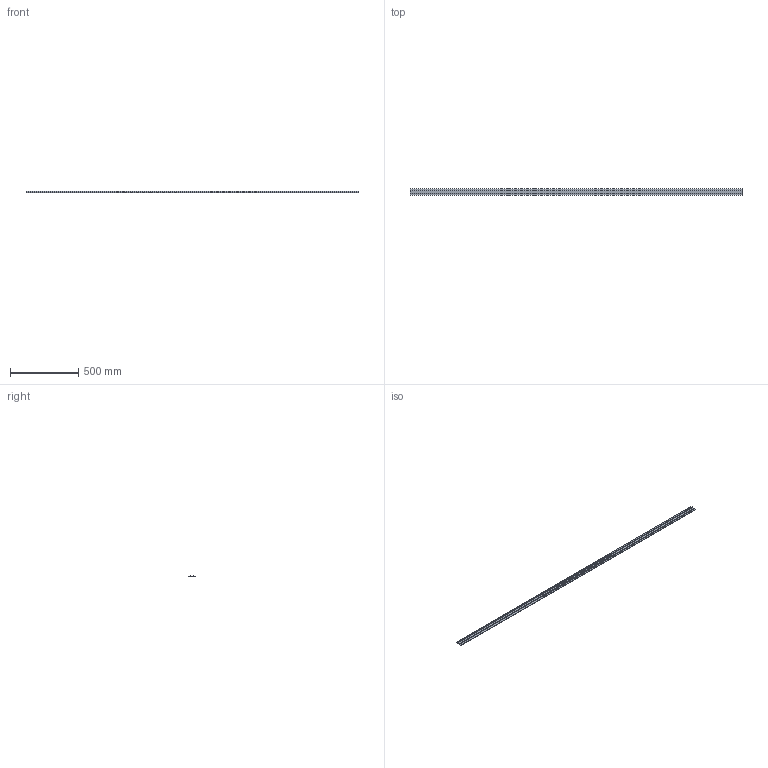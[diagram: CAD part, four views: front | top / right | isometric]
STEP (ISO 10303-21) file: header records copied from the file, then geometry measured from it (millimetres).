
FILE_DESCRIPTION((''),'2;1');
FILE_NAME('GTB13C04','2018-01-24T',('james.horst'),(''),'PRO/ENGINEER BY PARAMETRIC TECHNOLOGY CORPORATION, 2012420','PRO/ENGINEER BY PARAMETRIC TECHNOLOGY CORPORATION, 2012420','');
FILE_SCHEMA(('CONFIG_CONTROL_DESIGN'));
Length unit declared in the file: inch
Products named in the file (1): GTB13C04
Bounding box: 2438.4 x 50 x 7.9 mm (x, y, z)
Volume: 411323.9 mm3; surface area: 308052.6 mm2
Topology: 1 solids, 1 shells, 22 faces, 62 edges, 42 vertices
Faces by surface type: plane 14, cylinder 8
Entity records: 759 total; most frequent: CARTESIAN_POINT 130, ORIENTED_EDGE 124, DIRECTION 120, EDGE_CURVE 62, VECTOR 46, LINE 46, VERTEX_POINT 42, AXIS2_PLACEMENT_3D 37
